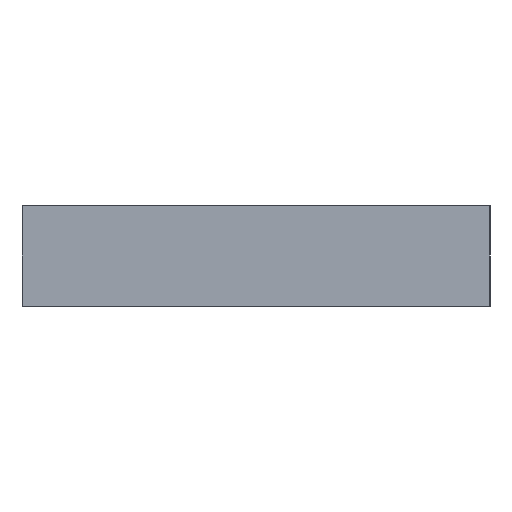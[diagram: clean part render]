
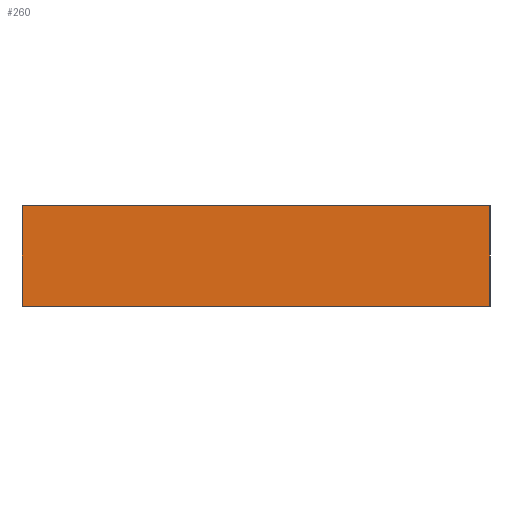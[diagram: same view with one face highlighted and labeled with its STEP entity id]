
A CAD part, front view. The second image highlights one B-rep face of the part: STEP entity #260.
In plain terms, the highlighted planar face has unit normal (0, -1, 0).
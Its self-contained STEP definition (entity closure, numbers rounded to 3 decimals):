
#12 = CARTESIAN_POINT ( 'NONE',  ( 7., -608.5, 0. ) ) ;
#39 = VERTEX_POINT ( 'NONE', #738 ) ;
#87 = CARTESIAN_POINT ( 'NONE',  ( 0., -608.5, 3. ) ) ;
#88 = DIRECTION ( 'NONE',  ( 1., 0., 0. ) ) ;
#97 = ORIENTED_EDGE ( 'NONE', *, *, #222, .F. ) ;
#126 = VECTOR ( 'NONE', #572, 1000. ) ;
#129 = EDGE_CURVE ( 'NONE', #39, #678, #220, .T. ) ;
#147 = ORIENTED_EDGE ( 'NONE', *, *, #551, .T. ) ;
#149 = CARTESIAN_POINT ( 'NONE',  ( 7., -608.5, 3. ) ) ;
#184 = DIRECTION ( 'NONE',  ( 0., 0., -1. ) ) ;
#213 = CARTESIAN_POINT ( 'NONE',  ( 7., -608.5, 3. ) ) ;
#220 = LINE ( 'NONE', #87, #785 ) ;
#222 = EDGE_CURVE ( 'NONE', #678, #467, #314, .T. ) ;
#260 = ADVANCED_FACE ( 'NONE', ( #393 ), #442, .F. ) ;
#287 = VECTOR ( 'NONE', #184, 1000. ) ;
#297 = DIRECTION ( 'NONE',  ( 0., 1., 0. ) ) ;
#314 = LINE ( 'NONE', #213, #287 ) ;
#318 = CARTESIAN_POINT ( 'NONE',  ( 0., -608.5, 0. ) ) ;
#331 = CARTESIAN_POINT ( 'NONE',  ( 0., -608.5, 3. ) ) ;
#388 = EDGE_CURVE ( 'NONE', #39, #763, #490, .T. ) ;
#393 = FACE_OUTER_BOUND ( 'NONE', #593, .T. ) ;
#438 = DIRECTION ( 'NONE',  ( 0., 0., 1. ) ) ;
#442 = PLANE ( 'NONE',  #581 ) ;
#467 = VERTEX_POINT ( 'NONE', #12 ) ;
#490 = LINE ( 'NONE', #602, #126 ) ;
#551 = EDGE_CURVE ( 'NONE', #763, #467, #987, .T. ) ;
#572 = DIRECTION ( 'NONE',  ( 0., 0., -1. ) ) ;
#581 = AXIS2_PLACEMENT_3D ( 'NONE', #331, #297, #438 ) ;
#593 = EDGE_LOOP ( 'NONE', ( #147, #97, #874, #789 ) ) ;
#602 = CARTESIAN_POINT ( 'NONE',  ( -7., -608.5, 3. ) ) ;
#678 = VERTEX_POINT ( 'NONE', #149 ) ;
#738 = CARTESIAN_POINT ( 'NONE',  ( -7., -608.5, 3. ) ) ;
#763 = VERTEX_POINT ( 'NONE', #824 ) ;
#785 = VECTOR ( 'NONE', #88, 1000. ) ;
#789 = ORIENTED_EDGE ( 'NONE', *, *, #388, .T. ) ;
#817 = VECTOR ( 'NONE', #845, 1000. ) ;
#824 = CARTESIAN_POINT ( 'NONE',  ( -7., -608.5, 0. ) ) ;
#845 = DIRECTION ( 'NONE',  ( 1., 0., 0. ) ) ;
#874 = ORIENTED_EDGE ( 'NONE', *, *, #129, .F. ) ;
#987 = LINE ( 'NONE', #318, #817 ) ;
